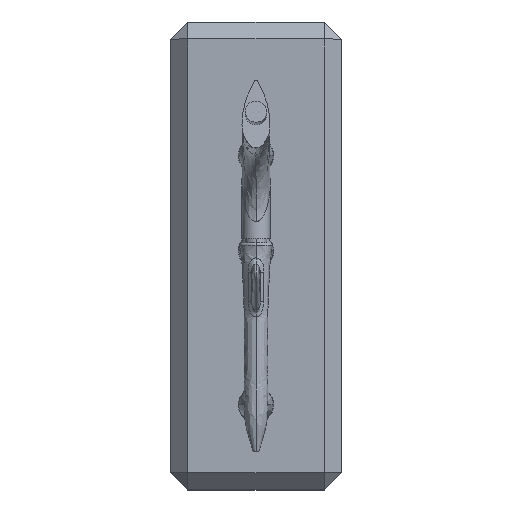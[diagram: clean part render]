
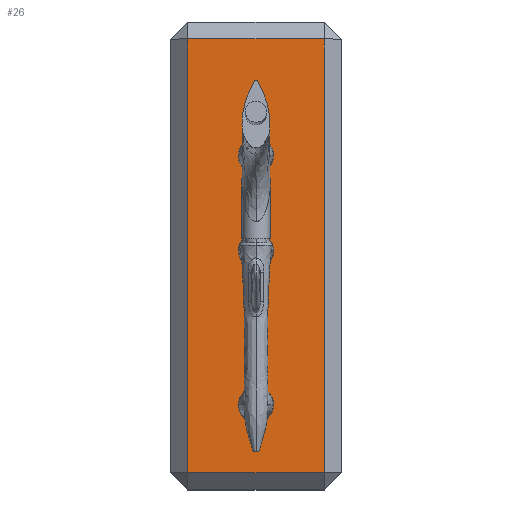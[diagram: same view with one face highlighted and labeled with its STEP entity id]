
A CAD part, top view. The second image highlights one B-rep face of the part: STEP entity #26.
In plain terms, the highlighted planar face has unit normal (0, 0, 1).
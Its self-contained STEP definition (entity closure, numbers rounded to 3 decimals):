
#14=FACE_BOUND('',#169,.T.);
#15=FACE_BOUND('',#170,.T.);
#16=FACE_BOUND('',#171,.T.);
#26=ADVANCED_FACE('',(#97,#14,#15,#16),#978,.T.);
#97=FACE_OUTER_BOUND('',#168,.T.);
#168=EDGE_LOOP('',(#264,#265,#266,#267));
#169=EDGE_LOOP('',(#268,#269));
#170=EDGE_LOOP('',(#270,#271));
#171=EDGE_LOOP('',(#272,#273));
#264=ORIENTED_EDGE('',*,*,#565,.T.);
#265=ORIENTED_EDGE('',*,*,#568,.F.);
#266=ORIENTED_EDGE('',*,*,#567,.F.);
#267=ORIENTED_EDGE('',*,*,#566,.T.);
#268=ORIENTED_EDGE('',*,*,#666,.T.);
#269=ORIENTED_EDGE('',*,*,#709,.T.);
#270=ORIENTED_EDGE('',*,*,#680,.F.);
#271=ORIENTED_EDGE('',*,*,#667,.F.);
#272=ORIENTED_EDGE('',*,*,#675,.F.);
#273=ORIENTED_EDGE('',*,*,#670,.F.);
#565=EDGE_CURVE('',#877,#878,#718,.T.);
#566=EDGE_CURVE('',#879,#877,#719,.T.);
#567=EDGE_CURVE('',#879,#880,#720,.T.);
#568=EDGE_CURVE('',#880,#878,#721,.T.);
#666=EDGE_CURVE('',#930,#956,#835,.T.);
#667=EDGE_CURVE('',#931,#939,#836,.T.);
#670=EDGE_CURVE('',#933,#936,#838,.T.);
#675=EDGE_CURVE('',#936,#933,#842,.T.);
#680=EDGE_CURVE('',#939,#931,#846,.T.);
#709=EDGE_CURVE('',#956,#930,#866,.T.);
#718=B_SPLINE_CURVE_WITH_KNOTS('',1,(#2695,#2696),.UNSPECIFIED.,.F.,.F.,
(2,2),(0.4,10.6),.UNSPECIFIED.);
#719=B_SPLINE_CURVE_WITH_KNOTS('',1,(#2697,#2698),.UNSPECIFIED.,.F.,.F.,
(2,2),(0.4,3.6),.UNSPECIFIED.);
#720=B_SPLINE_CURVE_WITH_KNOTS('',1,(#2699,#2700),.UNSPECIFIED.,.F.,.F.,
(2,2),(0.4,10.6),.UNSPECIFIED.);
#721=B_SPLINE_CURVE_WITH_KNOTS('',1,(#2701,#2702),.UNSPECIFIED.,.F.,.F.,
(2,2),(0.4,3.6),.UNSPECIFIED.);
#835=(
BOUNDED_CURVE()
B_SPLINE_CURVE(2,(#3257,#3258,#3259,#3260,#3261),.UNSPECIFIED.,.F.,.F.)
B_SPLINE_CURVE_WITH_KNOTS((3,2,3),(-3.142,-2.356,
-1.571),.UNSPECIFIED.)
CURVE()
GEOMETRIC_REPRESENTATION_ITEM()
RATIONAL_B_SPLINE_CURVE((1.,0.707,1.,0.707,1.))
REPRESENTATION_ITEM('')
);
#836=(
BOUNDED_CURVE()
B_SPLINE_CURVE(2,(#3262,#3263,#3264,#3265,#3266),.UNSPECIFIED.,.F.,.F.)
B_SPLINE_CURVE_WITH_KNOTS((3,2,3),(0.,0.785,1.571),
 .UNSPECIFIED.)
CURVE()
GEOMETRIC_REPRESENTATION_ITEM()
RATIONAL_B_SPLINE_CURVE((1.,0.707,1.,0.707,1.))
REPRESENTATION_ITEM('')
);
#838=(
BOUNDED_CURVE()
B_SPLINE_CURVE(2,(#3281,#3282,#3283,#3284,#3285),.UNSPECIFIED.,.F.,.F.)
B_SPLINE_CURVE_WITH_KNOTS((3,2,3),(0.,0.785,1.571),
 .UNSPECIFIED.)
CURVE()
GEOMETRIC_REPRESENTATION_ITEM()
RATIONAL_B_SPLINE_CURVE((1.,0.707,1.,0.707,1.))
REPRESENTATION_ITEM('')
);
#842=(
BOUNDED_CURVE()
B_SPLINE_CURVE(2,(#3316,#3317,#3318,#3319,#3320),.UNSPECIFIED.,.F.,.F.)
B_SPLINE_CURVE_WITH_KNOTS((3,2,3),(1.571,2.356,3.142),
 .UNSPECIFIED.)
CURVE()
GEOMETRIC_REPRESENTATION_ITEM()
RATIONAL_B_SPLINE_CURVE((1.,0.707,1.,0.707,1.))
REPRESENTATION_ITEM('')
);
#846=(
BOUNDED_CURVE()
B_SPLINE_CURVE(2,(#3351,#3352,#3353,#3354,#3355),.UNSPECIFIED.,.F.,.F.)
B_SPLINE_CURVE_WITH_KNOTS((3,2,3),(1.571,2.356,3.142),
 .UNSPECIFIED.)
CURVE()
GEOMETRIC_REPRESENTATION_ITEM()
RATIONAL_B_SPLINE_CURVE((1.,0.707,1.,0.707,1.))
REPRESENTATION_ITEM('')
);
#866=(
BOUNDED_CURVE()
B_SPLINE_CURVE(2,(#3533,#3534,#3535,#3536,#3537),.UNSPECIFIED.,.F.,.F.)
B_SPLINE_CURVE_WITH_KNOTS((3,2,3),(-1.571,-0.785,
0.),.UNSPECIFIED.)
CURVE()
GEOMETRIC_REPRESENTATION_ITEM()
RATIONAL_B_SPLINE_CURVE((1.,0.707,1.,0.707,1.))
REPRESENTATION_ITEM('')
);
#877=VERTEX_POINT('',#2581);
#878=VERTEX_POINT('',#2582);
#879=VERTEX_POINT('',#2583);
#880=VERTEX_POINT('',#2584);
#930=VERTEX_POINT('',#2634);
#931=VERTEX_POINT('',#2635);
#933=VERTEX_POINT('',#2637);
#936=VERTEX_POINT('',#2640);
#939=VERTEX_POINT('',#2643);
#956=VERTEX_POINT('',#2660);
#978=PLANE('',#1118);
#1118=AXIS2_PLACEMENT_3D('',#1262,#1150,$);
#1150=DIRECTION('',(0.,0.,1.));
#1262=CARTESIAN_POINT('',(-2.,5.5,2.));
#2581=CARTESIAN_POINT('',(-1.6,5.1,2.));
#2582=CARTESIAN_POINT('',(-1.6,-5.1,2.));
#2583=CARTESIAN_POINT('',(1.6,5.1,2.));
#2584=CARTESIAN_POINT('',(1.6,-5.1,2.));
#2634=CARTESIAN_POINT('',(0.416,0.12,2.));
#2635=CARTESIAN_POINT('',(0.416,-3.5,2.));
#2637=CARTESIAN_POINT('',(0.416,2.36,2.));
#2640=CARTESIAN_POINT('',(-0.416,2.36,2.));
#2643=CARTESIAN_POINT('',(-0.416,-3.5,2.));
#2660=CARTESIAN_POINT('',(-0.416,0.12,2.));
#2695=CARTESIAN_POINT('',(-1.6,5.1,2.));
#2696=CARTESIAN_POINT('',(-1.6,-5.1,2.));
#2697=CARTESIAN_POINT('',(1.6,5.1,2.));
#2698=CARTESIAN_POINT('',(-1.6,5.1,2.));
#2699=CARTESIAN_POINT('',(1.6,5.1,2.));
#2700=CARTESIAN_POINT('',(1.6,-5.1,2.));
#2701=CARTESIAN_POINT('',(1.6,-5.1,2.));
#2702=CARTESIAN_POINT('',(-1.6,-5.1,2.));
#3257=CARTESIAN_POINT('',(0.416,0.12,2.));
#3258=CARTESIAN_POINT('',(0.416,-0.296,2.));
#3259=CARTESIAN_POINT('',(0.,-0.296,2.));
#3260=CARTESIAN_POINT('',(-0.416,-0.296,2.));
#3261=CARTESIAN_POINT('',(-0.416,0.12,2.));
#3262=CARTESIAN_POINT('',(0.416,-3.5,2.));
#3263=CARTESIAN_POINT('',(0.416,-3.084,2.));
#3264=CARTESIAN_POINT('',(0.,-3.084,2.));
#3265=CARTESIAN_POINT('',(-0.416,-3.084,2.));
#3266=CARTESIAN_POINT('',(-0.416,-3.5,2.));
#3281=CARTESIAN_POINT('',(0.416,2.36,2.));
#3282=CARTESIAN_POINT('',(0.416,2.776,2.));
#3283=CARTESIAN_POINT('',(0.,2.776,2.));
#3284=CARTESIAN_POINT('',(-0.416,2.776,2.));
#3285=CARTESIAN_POINT('',(-0.416,2.36,2.));
#3316=CARTESIAN_POINT('',(-0.416,2.36,2.));
#3317=CARTESIAN_POINT('',(-0.416,1.944,2.));
#3318=CARTESIAN_POINT('',(0.,1.944,2.));
#3319=CARTESIAN_POINT('',(0.416,1.944,2.));
#3320=CARTESIAN_POINT('',(0.416,2.36,2.));
#3351=CARTESIAN_POINT('',(-0.416,-3.5,2.));
#3352=CARTESIAN_POINT('',(-0.416,-3.916,2.));
#3353=CARTESIAN_POINT('',(0.,-3.916,2.));
#3354=CARTESIAN_POINT('',(0.416,-3.916,2.));
#3355=CARTESIAN_POINT('',(0.416,-3.5,2.));
#3533=CARTESIAN_POINT('',(-0.416,0.12,2.));
#3534=CARTESIAN_POINT('',(-0.416,0.536,2.));
#3535=CARTESIAN_POINT('',(0.,0.536,2.));
#3536=CARTESIAN_POINT('',(0.416,0.536,2.));
#3537=CARTESIAN_POINT('',(0.416,0.12,2.));
